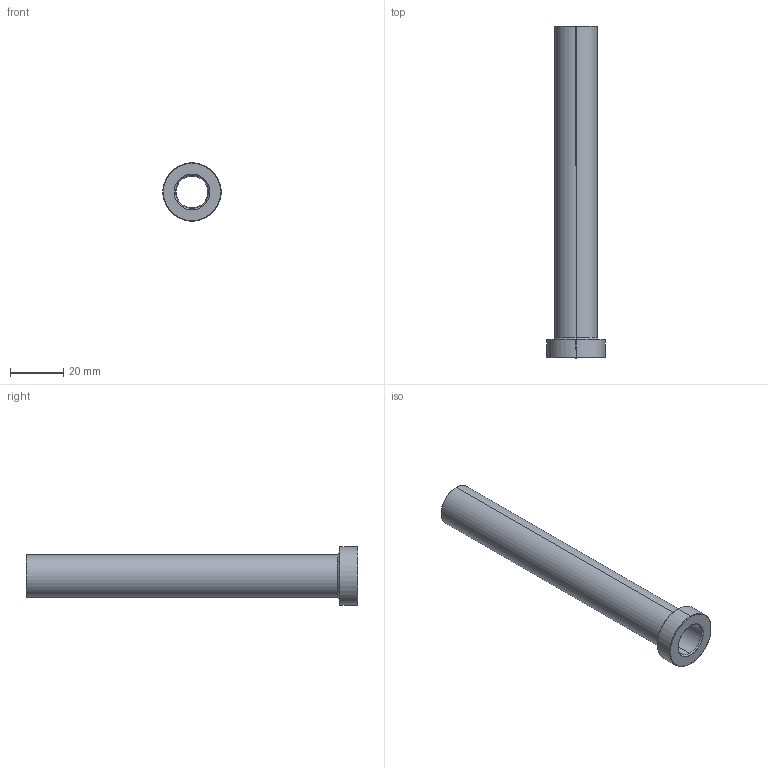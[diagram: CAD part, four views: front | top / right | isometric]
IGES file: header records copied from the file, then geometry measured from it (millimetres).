
Start section: SolidWorks IGES file using analytic representation for surfaces
Global section: file name: C:\Users\365admin\AppData\Local\Temp\InFlowConvert3DWorking\ESD12L125.igs; native system: SolidWorks 2019; preprocessor: SolidWorks 2019; author: 365admin; date: 220204.154627; units: millimetre
Bounding box: 22 x 125 x 22 mm (x, y, z)
Surface area: 11708.2 mm2 (no closed solid volume)
Topology: 0 solids, 0 shells, 21 faces, 264 edges, 264 vertices
Faces by surface type: revolution 16, bspline 5
